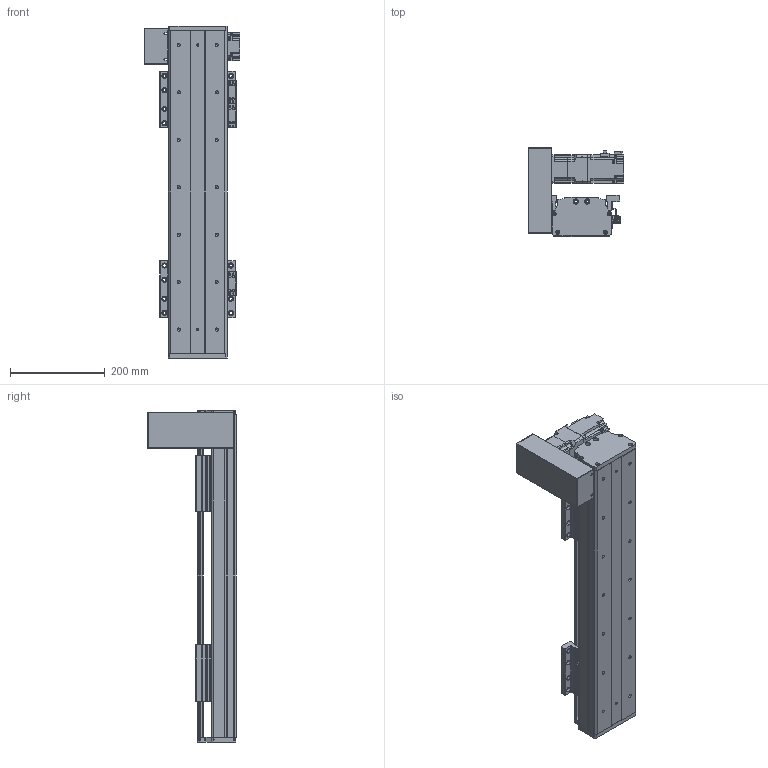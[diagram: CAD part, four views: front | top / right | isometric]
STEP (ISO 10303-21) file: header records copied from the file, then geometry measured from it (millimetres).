
FILE_DESCRIPTION(/* description */ (''),/* implementation_level */ '2;1');
FILE_NAME(/* name */ 'C:\Users\PC\Desktop\3D도면\STEP\DSB125-UL2G-W0400-R.stp',/* time_stamp */ '2018-06-19T00:38:54-07:00',/* author */ ('PC'),/* organization */ (''),/* preprocessor_version */ 'ST-DEVELOPER v16.5',/* originating_system */ 'Autodesk Inventor 2017',/* authorisation */ '');
FILE_SCHEMA (('AUTOMOTIVE_DESIGN { 1 0 10303 214 3 1 1 }'));
Length unit declared in the file: millimetre
Products named in the file (12): DSB125-L-300ST; DSR125-BASE(S-TYPE); DSR125-UP COVER-R01(170203); DSR125-REAR COVER-R01(170203); DSR125-REAR COVER-R01(170203)_1; hg-kr23_; ab0601-p0401200402; 13-BELT COVER; DSR126-SENSOR DOG; SENSOR BRACKET(EE-SX674A); pm-y65_step; DSR125-TABLE(MSA15X)
Assembly tree (16 placements, depth 2):
  DSB125-L-300ST
    DSR125-BASE(S-TYPE)
    DSR125-UP COVER-R01(170203)
    DSR125-REAR COVER-R01(170203)
    DSR125-REAR COVER-R01(170203)_1
    hg-kr23_
    ab0601-p0401200402
    13-BELT COVER
    DSR126-SENSOR DOG
    SENSOR BRACKET(EE-SX674A)  x3
    pm-y65_step  x3
    DSR125-TABLE(MSA15X)  x2
Bounding box: 202.1 x 187 x 700 mm (x, y, z)
Volume: 3135847.2 mm3; surface area: 907511.7 mm2
Topology: 17 solids, 22 shells, 1649 faces, 4471 edges, 2952 vertices
Faces by surface type: plane 908, cylinder 625, cone 104, sphere 8, torus 4
Full cylindrical faces by diameter (mm): 2.459 x20, 3.242 x16, 3.5 x6, 4 x1, 4.134 x16, 4.2 x4, 4.3 x1, 4.5 x50, 4.917 x20, 5 x27, 5.3 x1, 5.5 x4, 5.6 x8, 5.8 x4, 5.9 x8, 6 x4, 6.6 x22, 6.647 x14, 7.5 x32, 8.5 x8, 8.7 x1, 11 x22, 14 x1, 16 x2, 17 x1, 20 x1, 47 x1, 50 x3
Entity records: 35110 total; most frequent: CARTESIAN_POINT 6463, DIRECTION 6076, ORIENTED_EDGE 5454, EDGE_CURVE 2732, AXIS2_PLACEMENT_3D 2226, VERTEX_POINT 1941, EDGE_LOOP 1649, LINE 1624
